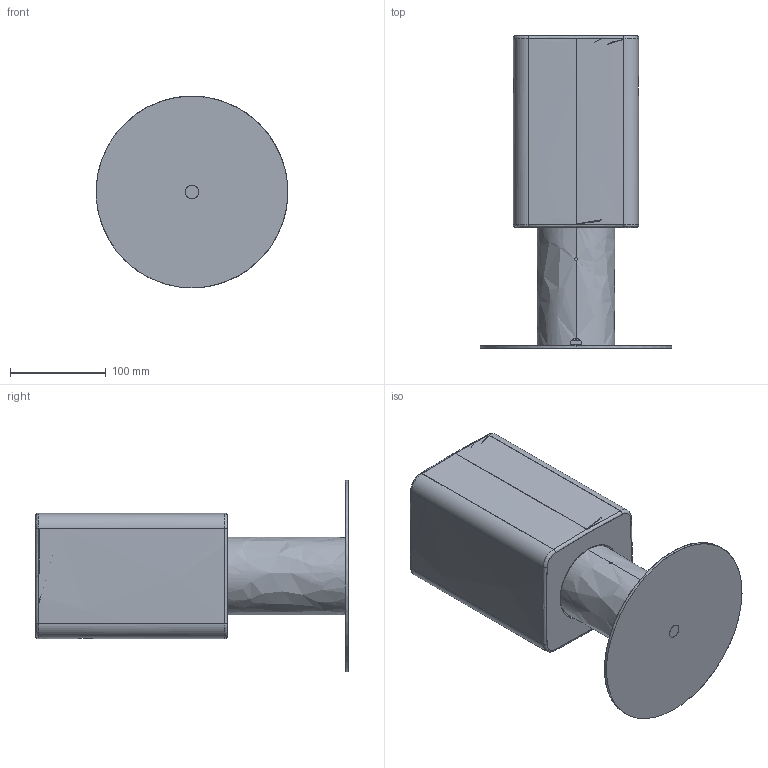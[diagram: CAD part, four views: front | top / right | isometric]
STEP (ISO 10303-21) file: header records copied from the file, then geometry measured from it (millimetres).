
FILE_DESCRIPTION(/* description */ (''),/* implementation_level */ '2;1');
FILE_NAME(/* name */ 'Tiny 2375',/* time_stamp */ '2019-04-23T16:13:12+02:00',/* author */ (''),/* organization */ (''),/* preprocessor_version */ 'ST-DEVELOPER v15',/* originating_system */ '',/* authorisation */ '');
FILE_SCHEMA (('AUTOMOTIVE_DESIGN'));
Length unit declared in the file: millimetre
Products named in the file (1): Document
Bounding box: 199.96 x 326 x 200 mm (x, y, z)
Surface area: 447444.7 mm2 (no closed solid volume)
Topology: 0 solids, 110 shells, 110 faces, 362 edges, 362 vertices
Faces by surface type: bspline 90, plane 20
Entity records: 6263 total; most frequent: CARTESIAN_POINT 3428, ORIENTED_EDGE 362, EDGE_CURVE 362, VERTEX_POINT 362, EDGE_LOOP 120, COLOUR_RGB 110, FILL_AREA_STYLE_COLOUR 110, FILL_AREA_STYLE 110
